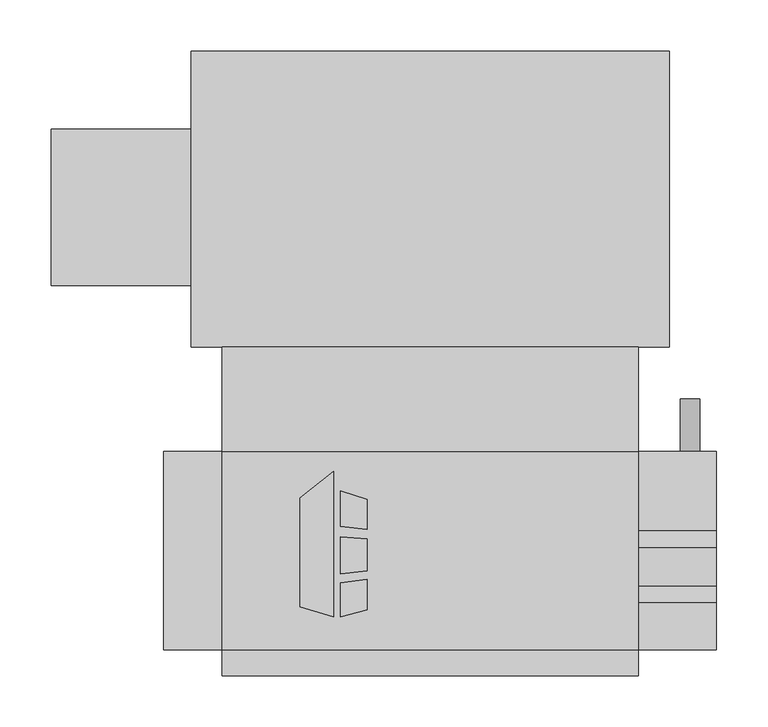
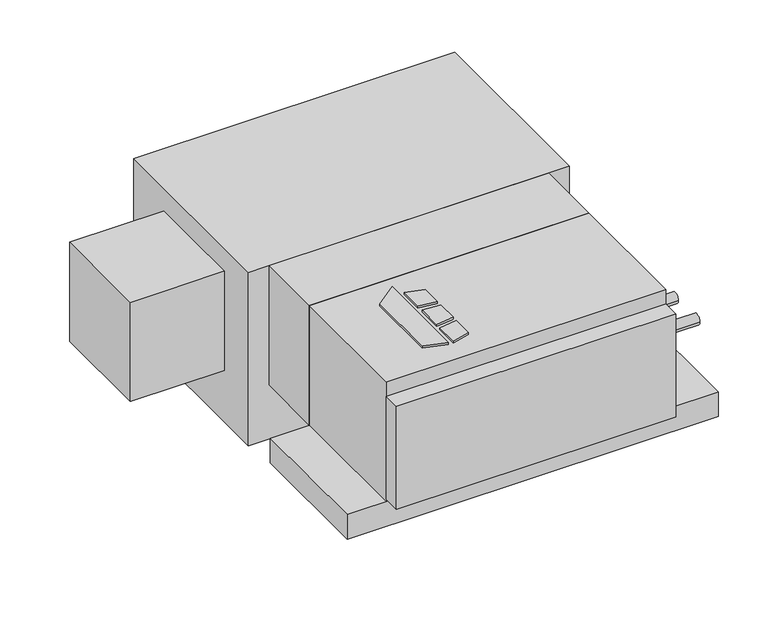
"""IFC4 building model written with IfcOpenShell, lengths in millimetres: proxy geometry, Concealed_Horizontal_Fan_Coil_Unit_With_Plenum_-_CPY_-_IEC_-_2-Pipe_Cool-EHeat_RH_2022 : Size 02 - 277v/60Hz/1Ph - 4 Row 2.0kW."""

from ifc_helpers import new_model, si_unit, point, frame, frame_2d, origin, origin_with_axes, place, context, project, spatial, polyline, circle_curve, trimmed, segment, composite_curve, outline, extrude, source, transform, mapped, element, save


def mechanical_equipment_035db757(model_context):
    return source(origin(), model_context, "Body", "SweptSolid", [
        extrude(outline(polyline([(25.4, -186.6953476), (57.9582967, -161.2580184), (57.9582967, -303.2125), (25.4, -292.9929201), (25.4, -186.6953476)])), origin_with_axes(), (0.0, 0.0, 1.0), 3.175),
        extrude(outline(polyline([(64.7166297, -214.567352), (64.7166297, -180.0874379), (90.7980239, -188.2740115), (90.7980239, -217.7697446), (64.7166297, -214.567352)])), origin_with_axes(), (0.0, 0.0, 1.0), 3.175),
        extrude(outline(polyline([(90.7980239, -296.2240115), (64.7166297, -303.2125), (64.7166297, -269.9911996), (90.7980239, -266.4493564), (90.7980239, -296.2240115)])), origin_with_axes(), (0.0, 0.0, 1.0), 3.175),
        extrude(outline(polyline([(90.7980239, -226.8513277), (90.7980239, -258.101483), (64.7166297, -260.842748), (64.7166297, -224.9850378), (90.7980239, -226.8513277)])), origin_with_axes(), (0.0, 0.0, 1.0), 3.175),
        extrude(outline(composite_curve([segment(trimmed(circle_curve(frame_2d((-280.9875, -104.775)), 7.9375), [point((-273.05, -104.775))], [point((-288.925, -104.775))], False, "CARTESIAN"), True, "CONTINUOUS"), segment(trimmed(circle_curve(frame_2d((-280.9875, -104.775)), 7.9375), [point((-288.925, -104.775))], [point((-273.05, -104.775))], False, "CARTESIAN"), True, "CONTINUOUS")], self_intersect=False)), frame((355.6, 0.0, 0.0), z_axis=(1.0, 0.0, 0.0), x_axis=(0.0, 1.0, 0.0)), (0.0, 0.0, 1.0), 76.2),
        extrude(outline(composite_curve([segment(trimmed(circle_curve(frame_2d((-227.0125, -104.775)), 7.9375), [point((-219.075, -104.775))], [point((-234.95, -104.775))], False, "CARTESIAN"), True, "CONTINUOUS"), segment(trimmed(circle_curve(frame_2d((-227.0125, -104.775)), 7.9375), [point((-234.95, -104.775))], [point((-219.075, -104.775))], False, "CARTESIAN"), True, "CONTINUOUS")], self_intersect=False)), frame((355.6, 0.0, 0.0), z_axis=(1.0, 0.0, 0.0), x_axis=(0.0, 1.0, 0.0)), (0.0, 0.0, 1.0), 76.2),
        extrude(outline(composite_curve([segment(trimmed(circle_curve(frame_2d((-209.55, 406.4)), 9.525), [point((-209.55, 396.875))], [point((-209.55, 415.925))], False, "CARTESIAN"), True, "CONTINUOUS"), segment(trimmed(circle_curve(frame_2d((-209.55, 406.4)), 9.525), [point((-209.55, 415.925))], [point((-209.55, 396.875))], False, "CARTESIAN"), True, "CONTINUOUS")], self_intersect=False)), frame((0.0, -141.2875, 0.0), z_axis=(0.0, 1.0, 0.0), x_axis=(0.0, 0.0, 1.0)), (0.0, 0.0, 1.0), 50.8),
        extrude(outline(polyline([(-50.8, -39.6875), (355.6, -39.6875), (355.6, -141.2875), (-50.8, -141.2875), (-50.8, -39.6875)])), frame((0.0, 0.0, -184.15), z_axis=(0.0, 0.0, 1.0), x_axis=(1.0, 0.0, 0.0)), (0.0, 0.0, 1.0), 184.15),
        extrude(outline(polyline([(355.6, -360.3625), (-50.8, -360.3625), (-50.8, -334.9625), (355.6, -334.9625), (355.6, -360.3625)])), frame((0.0, 0.0, -180.975), z_axis=(0.0, 0.0, 1.0), x_axis=(1.0, 0.0, 0.0)), (0.0, 0.0, 1.0), 158.75),
        extrude(outline(polyline([(-217.4875, 20.6375), (-217.4875, 173.0375), (-80.9625, 173.0375), (-80.9625, 20.6375), (-217.4875, 20.6375)])), frame((0.0, 0.0, -187.325), z_axis=(0.0, 0.0, 1.0), x_axis=(1.0, 0.0, 0.0)), (0.0, 0.0, 1.0), 152.4),
        extrude(outline(polyline([(-80.9625, 249.2375), (385.7625, 249.2375), (385.7625, -39.6875), (-80.9625, -39.6875), (-80.9625, 249.2375)])), frame((0.0, 0.0, -266.7), z_axis=(0.0, 0.0, 1.0), x_axis=(1.0, 0.0, 0.0)), (0.0, 0.0, 1.0), 266.7),
        extrude(outline(polyline([(355.6, -141.2875), (355.6, -334.9625), (-50.8, -334.9625), (-50.8, -141.2875), (355.6, -141.2875)])), frame((0.0, 0.0, -184.15), z_axis=(0.0, 0.0, 1.0), x_axis=(1.0, 0.0, 0.0)), (0.0, 0.0, 1.0), 184.15),
        extrude(outline(polyline([(431.8, -141.2875), (431.8, -334.9625), (-107.95, -334.9625), (-107.95, -141.2875), (431.8, -141.2875)])), frame((0.0, 0.0, -222.25), z_axis=(0.0, 0.0, 1.0), x_axis=(1.0, 0.0, 0.0)), (0.0, 0.0, 1.0), 38.1),
    ])


if __name__ == "__main__":
    model = new_model("IFC4")
    model_context = context("Model", 3, world=origin())
    ifc_project = project(units=[si_unit("LENGTHUNIT", "METRE", prefix="MILLI")], contexts=[model_context])
    site = spatial("IfcSite", under=ifc_project)
    building = spatial("IfcBuilding", under=site)
    placement = place(None, origin())
    mechanical_equipment_shape = mechanical_equipment_035db757(model_context)
    element("IfcBuildingElementProxy", 1, Name="Concealed_Horizontal_Fan_Coil_Unit_With_Plenum_-_CPY_-_IEC_-_2-Pipe_Cool-EHeat_RH_2022 : Size 02 - 277v/60Hz/1Ph - 4 Row 2.0kW", ObjectType="Concealed_Horizontal_Fan_Coil_Unit_With_Plenum_-_CPY_-_IEC_-_2-Pipe_Cool-EHeat_RH_2022 : Size 02 - 277v/60Hz/1Ph - 4 Row 2.0kW", at=placement, inside=building, context=model_context, shape_type="MappedRepresentation", body=[
        mapped(mechanical_equipment_shape, transform((0.0, 0.0, 0.0), x_axis=(1.0, 0.0, 0.0), y_axis=(0.0, 1.0, 0.0), z_axis=(0.0, 0.0, 1.0))),
    ])
    save(model, "model.ifc")
